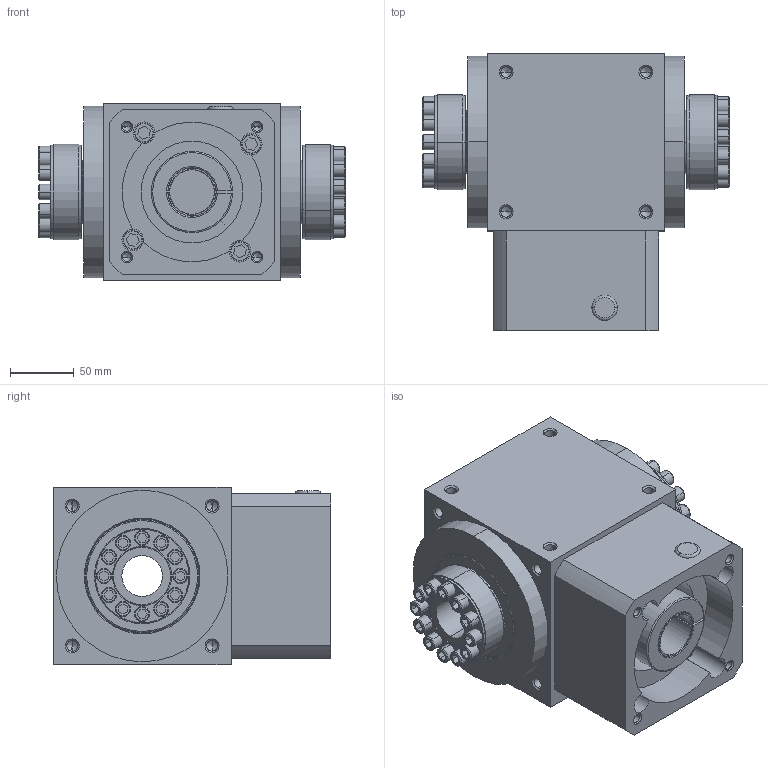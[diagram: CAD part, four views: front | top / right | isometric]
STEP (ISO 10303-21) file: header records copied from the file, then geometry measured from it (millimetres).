
FILE_DESCRIPTION (( 'STEP AP203' ), '1' );
FILE_NAME ('LAT140-ZJ2-45-75.STEP', '2025-01-10T07:46:25', ( '' ), ( '' ), 'SwSTEP 2.0', 'SolidWorks 2022', '' );
FILE_SCHEMA (( 'CONFIG_CONTROL_DESIGN' ));
Length unit declared in the file: millimetre
Products named in the file (1): LAT140-ZJ2-45-75
Bounding box: 241 x 218.5 x 140 mm (x, y, z)
Volume: 4004685.6 mm3; surface area: 471402.9 mm2
Topology: 39 solids, 39 shells, 1005 faces, 2401 edges, 1493 vertices
Faces by surface type: cylinder 393, plane 339, cone 209, torus 64
Entity records: 29187 total; most frequent: CARTESIAN_POINT 5284, DIRECTION 5284, ORIENTED_EDGE 4706, EDGE_CURVE 2353, AXIS2_PLACEMENT_3D 2061, VERTEX_POINT 1493, EDGE_LOOP 1218, LINE 1162
